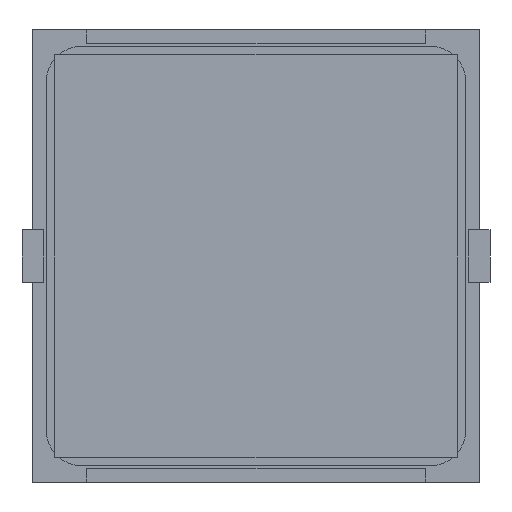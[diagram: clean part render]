
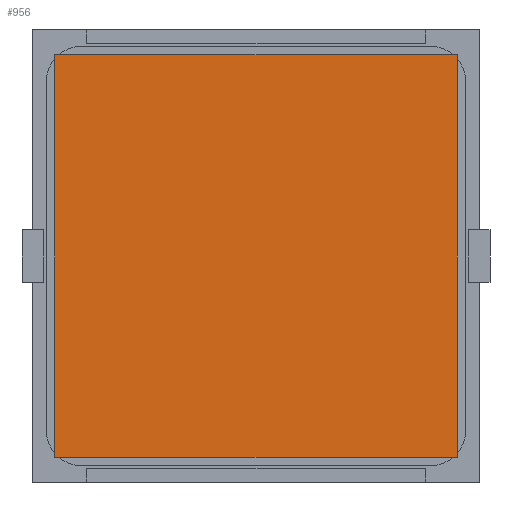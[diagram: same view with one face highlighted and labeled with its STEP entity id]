
A CAD part, front view. The second image highlights one B-rep face of the part: STEP entity #956.
In plain terms, the highlighted planar face has unit normal (0, -1, 0).
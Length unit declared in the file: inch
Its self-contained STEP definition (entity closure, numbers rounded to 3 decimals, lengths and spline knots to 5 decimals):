
#372 = EDGE_CURVE ( 'NONE', #3197, #6746, #2606, .T. ) ;
#719 = DIRECTION ( 'NONE',  ( 0., 1., 0. ) ) ;
#956 = ADVANCED_FACE ( 'NONE', ( #7937 ), #3292, .F. ) ;
#1156 = CARTESIAN_POINT ( 'NONE',  ( 0.74803, -0.005, -0.74803 ) ) ;
#2204 = VECTOR ( 'NONE', #4682, 39.37008 ) ;
#2456 = ORIENTED_EDGE ( 'NONE', *, *, #8798, .F. ) ;
#2606 = LINE ( 'NONE', #7158, #5118 ) ;
#2792 = LINE ( 'NONE', #1156, #2204 ) ;
#2893 = EDGE_LOOP ( 'NONE', ( #10426, #2456, #11185, #4949 ) ) ;
#3197 = VERTEX_POINT ( 'NONE', #9436 ) ;
#3292 = PLANE ( 'NONE',  #5931 ) ;
#4029 = CARTESIAN_POINT ( 'NONE',  ( -0.74803, -0.005, -0.74803 ) ) ;
#4403 = LINE ( 'NONE', #6148, #7417 ) ;
#4682 = DIRECTION ( 'NONE',  ( 0., 0., -1. ) ) ;
#4949 = ORIENTED_EDGE ( 'NONE', *, *, #372, .F. ) ;
#5118 = VECTOR ( 'NONE', #6047, 39.37008 ) ;
#5374 = CARTESIAN_POINT ( 'NONE',  ( -0.74803, -0.005, -0.74803 ) ) ;
#5931 = AXIS2_PLACEMENT_3D ( 'NONE', #10536, #719, #11447 ) ;
#6047 = DIRECTION ( 'NONE',  ( 1., 0., 0. ) ) ;
#6148 = CARTESIAN_POINT ( 'NONE',  ( -0.74803, -0.005, -0.74803 ) ) ;
#6264 = DIRECTION ( 'NONE',  ( 0., 0., 1. ) ) ;
#6550 = VERTEX_POINT ( 'NONE', #5374 ) ;
#6597 = CARTESIAN_POINT ( 'NONE',  ( 0.74803, -0.005, 0.74803 ) ) ;
#6746 = VERTEX_POINT ( 'NONE', #6597 ) ;
#7158 = CARTESIAN_POINT ( 'NONE',  ( -0.74803, -0.005, 0.74803 ) ) ;
#7417 = VECTOR ( 'NONE', #6264, 39.37008 ) ;
#7720 = LINE ( 'NONE', #4029, #8676 ) ;
#7937 = FACE_OUTER_BOUND ( 'NONE', #2893, .T. ) ;
#8676 = VECTOR ( 'NONE', #11470, 39.37008 ) ;
#8798 = EDGE_CURVE ( 'NONE', #10731, #6550, #7720, .T. ) ;
#8948 = EDGE_CURVE ( 'NONE', #6746, #10731, #2792, .T. ) ;
#9436 = CARTESIAN_POINT ( 'NONE',  ( -0.74803, -0.005, 0.74803 ) ) ;
#9681 = CARTESIAN_POINT ( 'NONE',  ( 0.74803, -0.005, -0.74803 ) ) ;
#10426 = ORIENTED_EDGE ( 'NONE', *, *, #11288, .F. ) ;
#10536 = CARTESIAN_POINT ( 'NONE',  ( -0.74803, -0.005, 0.74803 ) ) ;
#10731 = VERTEX_POINT ( 'NONE', #9681 ) ;
#11185 = ORIENTED_EDGE ( 'NONE', *, *, #8948, .F. ) ;
#11288 = EDGE_CURVE ( 'NONE', #6550, #3197, #4403, .T. ) ;
#11447 = DIRECTION ( 'NONE',  ( 0., 0., 1. ) ) ;
#11470 = DIRECTION ( 'NONE',  ( -1., 0., 0. ) ) ;
